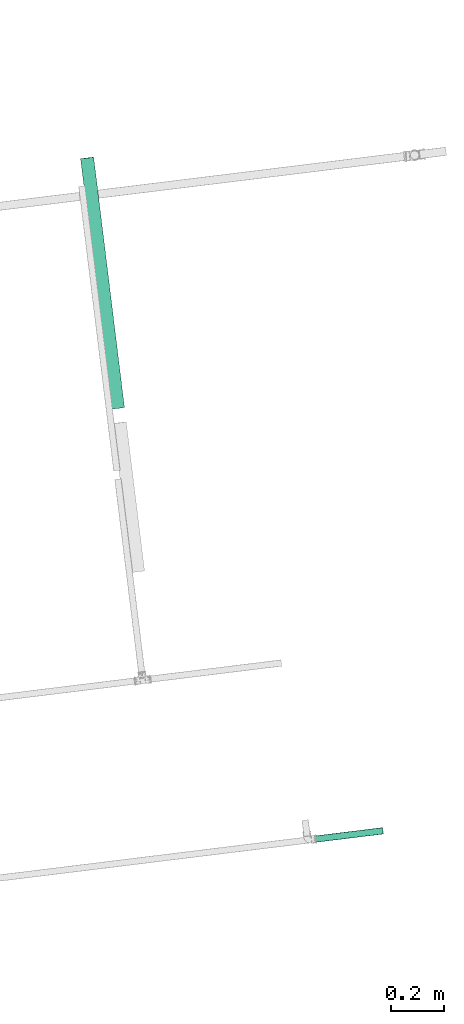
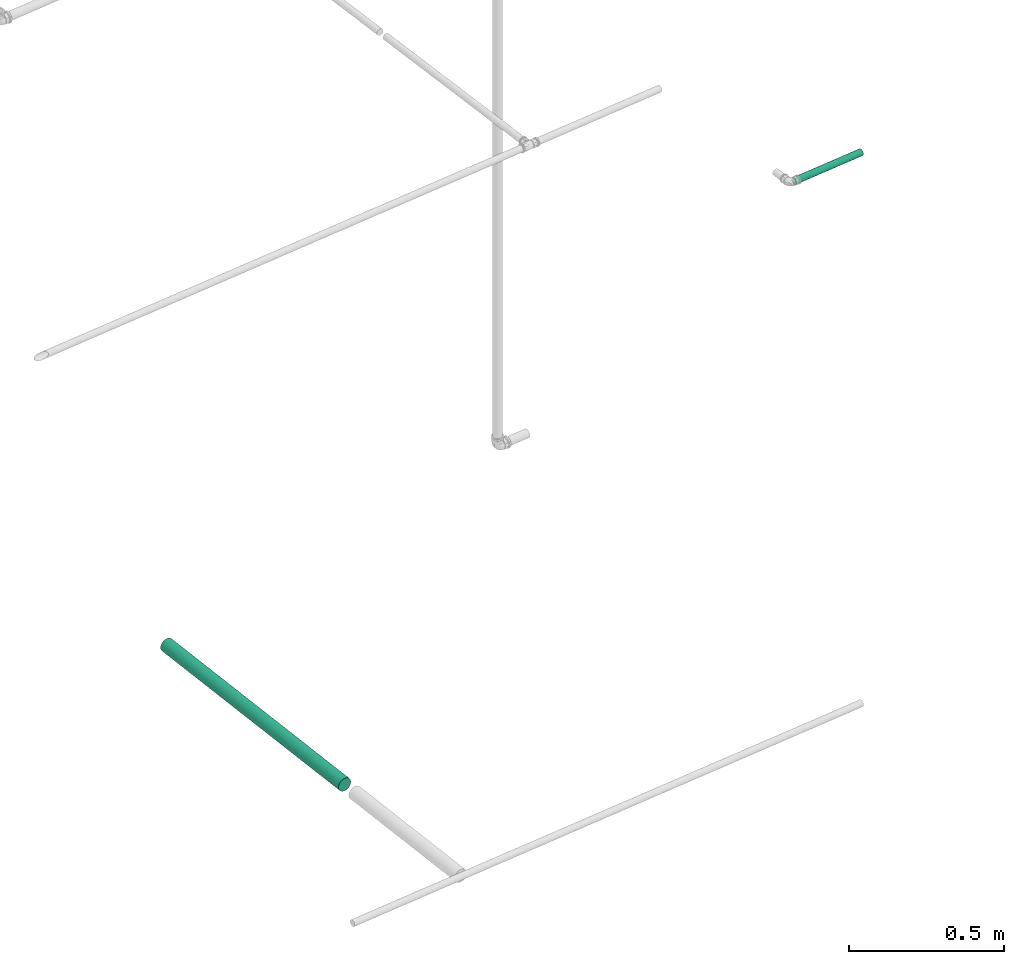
# One storey, part 5 of 8: 2 flow segments.
"""IFC2X3 building model written with IfcOpenShell, lengths in centimetres."""

from ifc_helpers import new_model, entity, si_unit, converted_unit, derived_unit, direction, frame, frame_2d, origin, origin_2d_with_axis, place, context, subcontext, project, spatial, circle, extrude, type_object, element, save


model = new_model("IFC2X3")

# Units and contexts
model_context = context("Model", 3, precision=0.001, world=origin(), true_north=direction((6.12303176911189e-17, 1.0)))
body_context = subcontext(model_context, "Body", "Model", "MODEL_VIEW")
ifc_project = project(units=[si_unit("LENGTHUNIT", "METRE", prefix="CENTI"), si_unit("AREAUNIT", "SQUARE_METRE"), si_unit("VOLUMEUNIT", "CUBIC_METRE"), converted_unit("PLANEANGLEUNIT", "DEGREE", entity("IfcRatioMeasure", 0.0174532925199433), si_unit("PLANEANGLEUNIT", "RADIAN"), dimensions=[0, 0, 0, 0, 0, 0, 0]), si_unit("MASSUNIT", "GRAM", prefix="KILO"), derived_unit("MASSDENSITYUNIT", [(si_unit("MASSUNIT", "GRAM", prefix="KILO"), 1), (si_unit("LENGTHUNIT", "METRE"), -3)]), derived_unit("MOMENTOFINERTIAUNIT", [(si_unit("LENGTHUNIT", "METRE"), 4)]), si_unit("TIMEUNIT", "SECOND"), si_unit("FREQUENCYUNIT", "HERTZ"), si_unit("THERMODYNAMICTEMPERATUREUNIT", "DEGREE_CELSIUS"), derived_unit("THERMALTRANSMITTANCEUNIT", [(si_unit("MASSUNIT", "GRAM", prefix="KILO"), 1), (si_unit("THERMODYNAMICTEMPERATUREUNIT", "KELVIN"), -1), (si_unit("TIMEUNIT", "SECOND"), -3)]), derived_unit("VOLUMETRICFLOWRATEUNIT", [(si_unit("LENGTHUNIT", "METRE"), 3), (si_unit("TIMEUNIT", "SECOND"), -1)]), si_unit("ELECTRICCURRENTUNIT", "AMPERE"), si_unit("ELECTRICVOLTAGEUNIT", "VOLT"), si_unit("POWERUNIT", "WATT"), si_unit("FORCEUNIT", "NEWTON", prefix="KILO"), si_unit("ILLUMINANCEUNIT", "LUX"), si_unit("LUMINOUSFLUXUNIT", "LUMEN"), si_unit("LUMINOUSINTENSITYUNIT", "CANDELA"), derived_unit("USERDEFINED", [(si_unit("MASSUNIT", "GRAM", prefix="KILO"), -1), (si_unit("LENGTHUNIT", "METRE"), -2), (si_unit("TIMEUNIT", "SECOND"), 3), (si_unit("LUMINOUSFLUXUNIT", "LUMEN"), 1)]), derived_unit("LINEARVELOCITYUNIT", [(si_unit("LENGTHUNIT", "METRE"), 1), (si_unit("TIMEUNIT", "SECOND"), -1)]), si_unit("PRESSUREUNIT", "PASCAL"), derived_unit("USERDEFINED", [(si_unit("LENGTHUNIT", "METRE"), -2), (si_unit("MASSUNIT", "GRAM", prefix="KILO"), 1), (si_unit("TIMEUNIT", "SECOND"), -2)]), derived_unit("LINEARFORCEUNIT", [(si_unit("MASSUNIT", "GRAM", prefix="KILO"), 1), (si_unit("LENGTHUNIT", "METRE"), 1), (si_unit("TIMEUNIT", "SECOND"), -2), (si_unit("LENGTHUNIT", "METRE"), -1)]), derived_unit("PLANARFORCEUNIT", [(si_unit("MASSUNIT", "GRAM", prefix="KILO"), 1), (si_unit("LENGTHUNIT", "METRE"), 1), (si_unit("TIMEUNIT", "SECOND"), -2), (si_unit("LENGTHUNIT", "METRE"), -2)])], contexts=[model_context])

# Site, building, storey
site_placement = place(None, origin())
site = spatial("IfcSite", under=ifc_project, at=site_placement, Name="Default", CompositionType="ELEMENT")
building_placement = place(site_placement, origin())
building = spatial("IfcBuilding", under=site, at=building_placement, Name="HIDROSSANITÁRIO", CompositionType="ELEMENT")
storey_placement = place(building_placement, origin())
storey = spatial("IfcBuildingStorey", under=building, at=storey_placement, Name="TERRENO", CompositionType="ELEMENT", Elevation=0.0)

# Flow segments
pipe_segment_type_1 = type_object("IfcPipeSegmentType", Name="Tipos de tubos:Tubo Marrom - Água Fria - Soldável", PredefinedType="NOTDEFINED")
flow_segment_1_placement = place(storey_placement, origin())
element("IfcFlowSegment", 1, at=flow_segment_1_placement, inside=storey, type_object=pipe_segment_type_1, Name="Tipos de tubos:Tubo Marrom - Água Fria - Soldável", ObjectType="Tipos de tubos:Tubo Marrom - Água Fria - Soldável", context=body_context, shape_type="SweptSolid", body=[
    extrude(circle(Radius=1.25, at=origin_2d_with_axis()), frame((-1507.05190855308, 2910.58784294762, 17.3888861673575), z_axis=(0.992505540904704, 0.122199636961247, 0.0), x_axis=(0.122199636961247, -0.992505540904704, 0.0)), (0.0, 0.0, 1.0), 27.2070544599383),
])
pipe_segment_type_2 = type_object("IfcPipeSegmentType", Name="Tipos de tubos:Tubo - Esgoto - Série Normal", PredefinedType="NOTDEFINED")
flow_segment_2_placement = place(storey_placement, origin())
element("IfcFlowSegment", 2, at=flow_segment_2_placement, inside=storey, type_object=pipe_segment_type_2, Name="Tipos de tubos:Tubo - Esgoto - Série Normal", ObjectType="Tipos de tubos:Tubo - Esgoto - Série Normal", context=body_context, shape_type="SweptSolid", body=[
    extrude(circle(Radius=2.5, at=frame_2d((5.29099387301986e-14, 7.73741727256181e-15), x_axis=(1.0, 0.0))), frame((-1580.39683578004, 3073.86320856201, -293.91897305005), z_axis=(-0.122132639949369, 0.992350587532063, 0.0179980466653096), x_axis=(0.992511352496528, 0.122152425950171, 0.0)), (0.0, 0.0, 1.0), 95.5088672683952),
])

save(model, "model.ifc")
